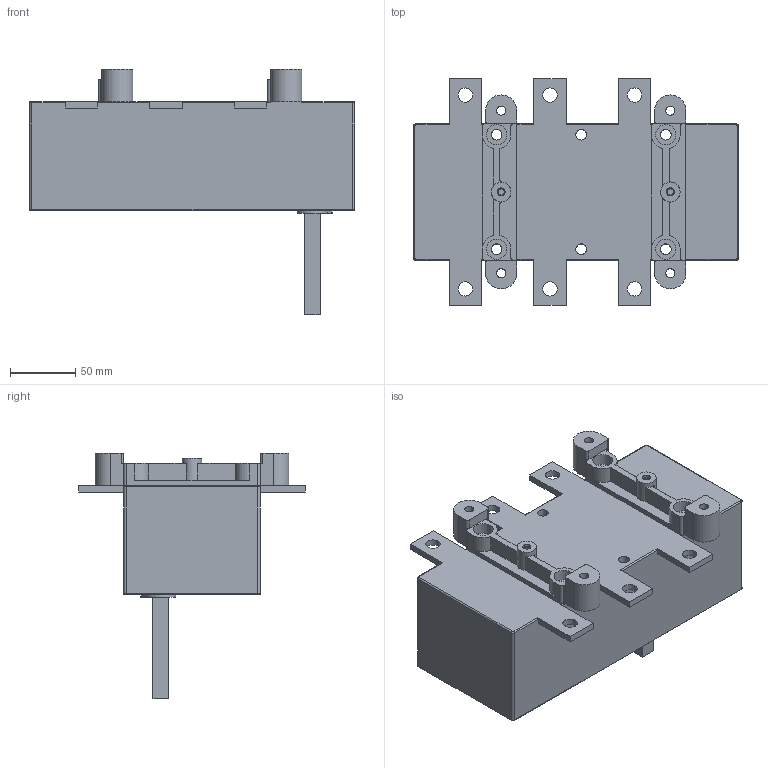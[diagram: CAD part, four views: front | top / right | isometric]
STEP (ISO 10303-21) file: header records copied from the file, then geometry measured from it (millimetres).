
FILE_DESCRIPTION(/* description */ (''),/* implementation_level */ '2;1');
FILE_NAME(/* name */ 'RA630 P3.stp',/* time_stamp */ '2021-08-18T14:48:13+02:00',/* author */ (''),/* organization */ (''),/* preprocessor_version */ 'ST-DEVELOPER v18.1',/* originating_system */ 'SIEMENS PLM Software NX 1965',/* authorisation */ '');
FILE_SCHEMA (('AUTOMOTIVE_DESIGN { 1 0 10303 214 3 1 1 1 }'));
Length unit declared in the file: millimetre
Products named in the file (1): RA630 P3
Bounding box: 250 x 174 x 189 mm (x, y, z)
Volume: 2293385.3 mm3; surface area: 165284.6 mm2
Topology: 1 solids, 1 shells, 190 faces, 512 edges, 341 vertices
Faces by surface type: plane 96, cylinder 86, bspline 8
Full cylindrical faces by diameter (mm): 4.8 x2, 6.2 x2, 7 x4, 8.2 x6, 11 x6, 14 x4, 15 x2, 15.5 x4
Entity records: 5966 total; most frequent: CARTESIAN_POINT 1140, DIRECTION 1020, ORIENTED_EDGE 940, EDGE_CURVE 470, AXIS2_PLACEMENT_3D 369, VERTEX_POINT 326, LINE 282, VECTOR 282
